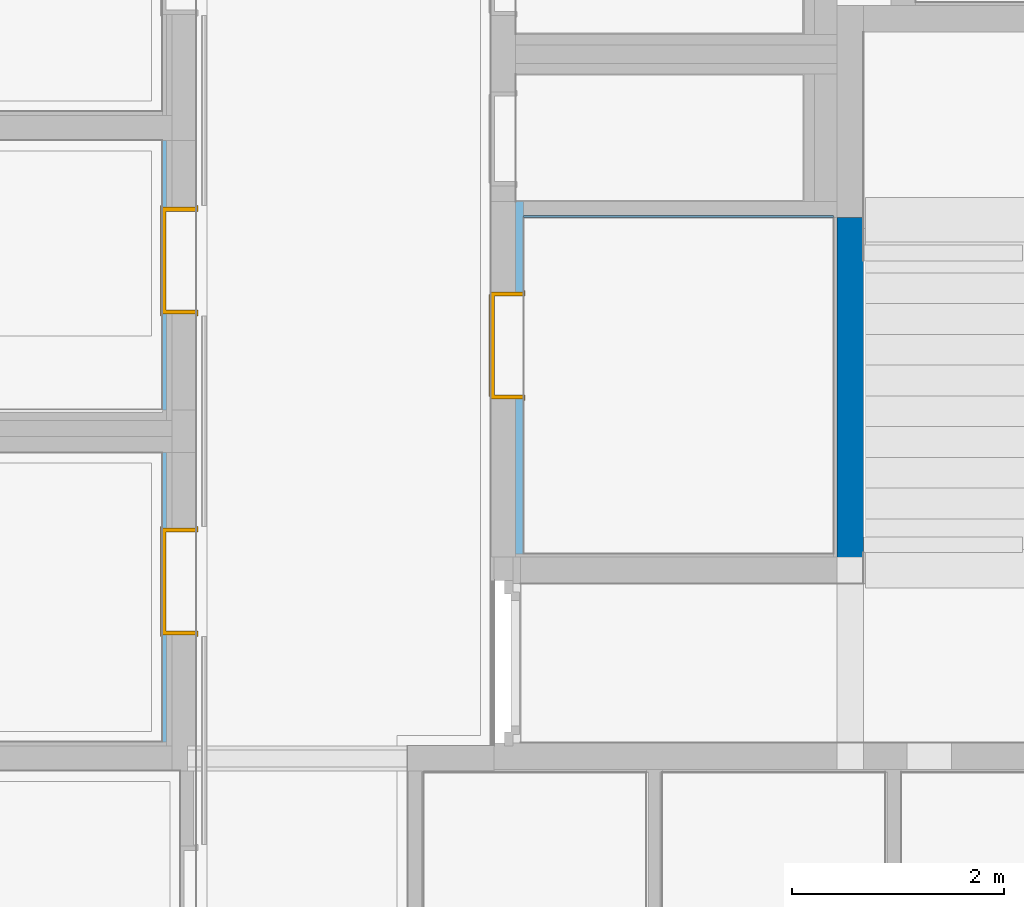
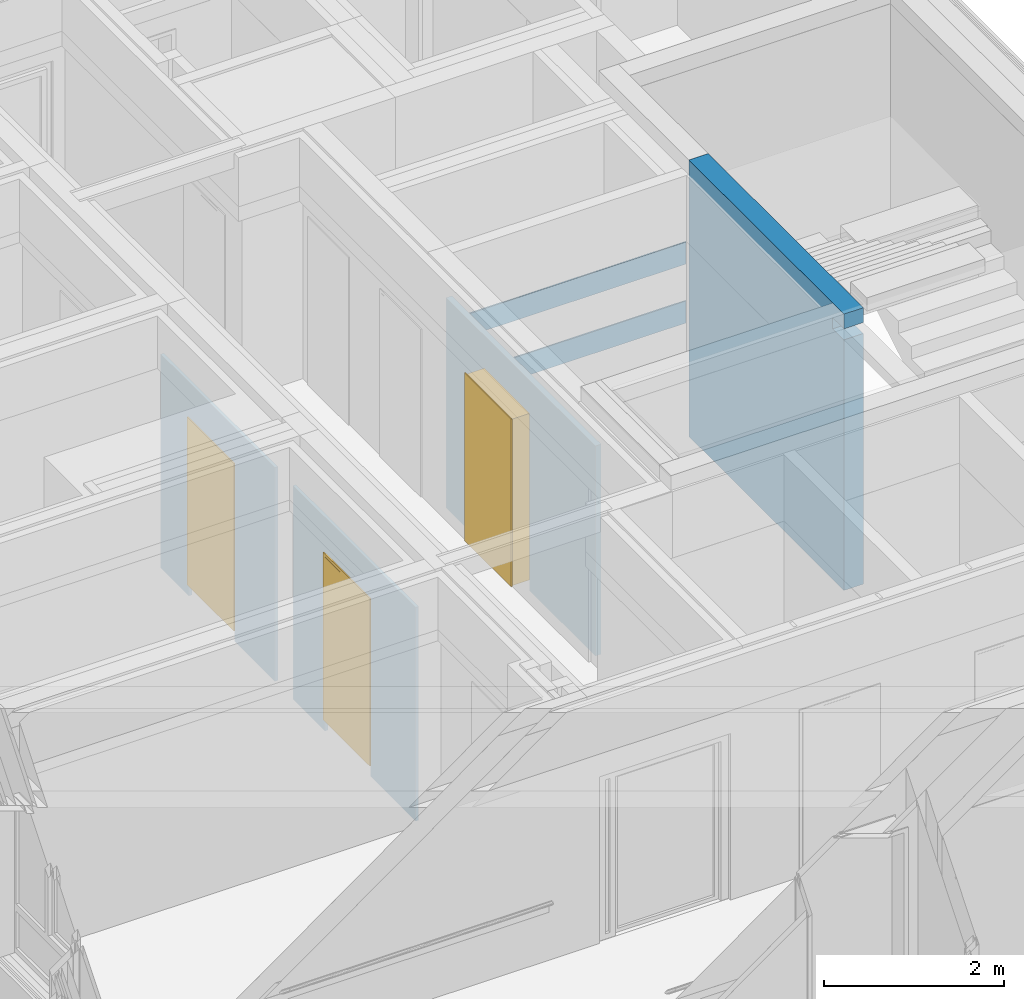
# One storey, part 135 of 222: 3 doors, 3 walls, 3 openings, plus 3 elements that do not belong to this part.
"""IFC4 building model written with IfcOpenShell, lengths in metres."""

from ifc_helpers import new_model, entity, si_unit, converted_unit, derived_unit, frame, frame_2d, origin, origin_with_axes, place, context, subcontext, project, spatial, polyline, rectangle, outline, extrude, faceted_brep, source, transform, mapped, material, type_object, element, fill, save


model = new_model("IFC4")

# Units and contexts
model_context = context("Model", 3, precision=1e-05, world=origin())
body_context = subcontext(model_context, "Body", "Model", "MODEL_VIEW")
ifc_project = project(units=[si_unit("LENGTHUNIT", "METRE"), si_unit("AREAUNIT", "SQUARE_METRE"), si_unit("VOLUMEUNIT", "CUBIC_METRE"), si_unit("MASSUNIT", "GRAM", prefix="KILO"), converted_unit("PLANEANGLEUNIT", "DEGREE", entity("IfcPlaneAngleMeasure", 0.0174532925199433), si_unit("PLANEANGLEUNIT", "RADIAN"), dimensions=[0, 0, 0, 0, 0, 0, 0]), derived_unit("THERMALTRANSMITTANCEUNIT", [(si_unit("POWERUNIT", "WATT"), 1), (si_unit("THERMODYNAMICTEMPERATUREUNIT", "KELVIN"), -1), (si_unit("LENGTHUNIT", "METRE"), -2)]), derived_unit("VOLUMETRICFLOWRATEUNIT", [(si_unit("LENGTHUNIT", "METRE"), 3), (converted_unit("TIMEUNIT", "hour", entity("IfcTimeMeasure", 3600.0), si_unit("TIMEUNIT", "SECOND"), dimensions=[0, 0, 1, 0, 0, 0, 0]), -1), (si_unit("LENGTHUNIT", "METRE"), -1)])], contexts=[model_context])

# Site, building, storey
site_placement = place(None, origin())
site = spatial("IfcSite", under=ifc_project, at=site_placement, Name="Psychiatrie Neubau Wunstorf", CompositionType="ELEMENT")
building_placement = place(site_placement, origin())
building = spatial("IfcBuilding", under=site, at=building_placement, Name="Neubau H2 Stationsgebäude", CompositionType="ELEMENT")
storey_placement = place(building_placement, frame((0.0, 0.0, 3.6)))
storey = spatial("IfcBuildingStorey", under=building, at=storey_placement, Name="H2 Ebene +1", CompositionType="ELEMENT", Elevation=3.6)

# Wall, opening, door
ifc_material_1 = material(Name="WI-LB")
wall_1_placement = place(storey_placement, frame((95.7609999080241, 13.6109999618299, 0.0), z_axis=(0.0, 0.0, 1.0), x_axis=(0.0, -1.0, 0.0)))
wall_1 = element("IfcWall", 1, at=wall_1_placement, inside=storey, material=ifc_material_1, context=body_context, shape_type="SweptSolid", body=[
    extrude(rectangle(XDim=2.72850006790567, YDim=0.0395, at=frame_2d((1.36425003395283, 0.01975), x_axis=(1.0, 0.0))), origin_with_axes(), (0.0, 0.0, 1.0), 2.9),
])
opening_1_placement = place(wall_1_placement, frame((1.72099996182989, 0.0395, 0.0), z_axis=(0.0, -1.0, 0.0), x_axis=(0.0, 0.0, 1.0)))
opening_1 = element("IfcOpeningElement", 2, at=opening_1_placement, cuts=wall_1, Name="Türöffnung", ObjectType="Opening", context=body_context, shape_type="SweptSolid", body=[
    extrude(outline(polyline([(2.41, 1.01), (2.41, 0.0), (0.0, 0.0), (0.0, 1.01), (2.41, 1.01)])), origin_with_axes(), (0.0, 0.0, 1.0), 0.0395),
])
ifc_material_2 = material(Name="TI-1F-UZ-ZK")
door_type_1 = type_object("IfcDoorType", Name="SMT", OperationType="SINGLE_SWING_RIGHT", ParameterTakesPrecedence=False, PredefinedType="DOOR")
shared_shape_1 = source(origin_with_axes(), body_context, "Body", "Brep", [
    faceted_brep([(1.01, -0.0149999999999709, 2.41), (1.01, -0.0149999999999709, 0.15), (0.969999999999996, -0.0149999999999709, 0.15), (0.969999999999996, -0.0149999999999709, 2.41), (1.01, 0.336500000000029, 0.15), (1.01, 0.336500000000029, 2.41), (0.969999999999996, 0.336500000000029, 2.41), (0.969999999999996, 0.336500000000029, 0.15)], [[[0, 1, 2, 3]], [[4, 5, 6, 7]], [[1, 0, 5, 4]], [[2, 1, 4, 7]], [[3, 2, 7, 6]], [[0, 3, 6, 5]]], orient=[[False], [False], [False], [False], [False], [False]]),
    faceted_brep([(1.01, -0.0149999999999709, 2.425), (1.025, -0.0149999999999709, 2.425), (1.025, -0.0149999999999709, 0.15), (1.01, -0.0149999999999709, 0.15), (1.01, 0.0, 0.15), (1.025, 0.0, 0.15), (1.025, 0.0, 2.425), (1.01, 0.0, 2.425)], [[[0, 1, 2, 3]], [[4, 5, 6, 7]], [[3, 4, 7, 0]], [[2, 5, 4, 3]], [[1, 6, 5, 2]], [[0, 7, 6, 1]]], orient=[[False], [False], [False], [False], [False], [False]]),
    faceted_brep([(1.01, 0.321500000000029, 2.425), (1.025, 0.321500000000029, 2.425), (1.025, 0.321500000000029, 0.15), (1.01, 0.321500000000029, 0.15), (1.01, 0.336500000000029, 0.15), (1.025, 0.336500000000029, 0.15), (1.025, 0.336500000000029, 2.425), (1.01, 0.336500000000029, 2.425)], [[[0, 1, 2, 3]], [[4, 5, 6, 7]], [[3, 4, 7, 0]], [[2, 5, 4, 3]], [[1, 6, 5, 2]], [[0, 7, 6, 1]]], orient=[[False], [False], [False], [False], [False], [False]]),
    faceted_brep([(0.0399999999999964, -0.0149999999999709, 2.41), (0.0399999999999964, -0.0149999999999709, 0.15), (0.0, -0.0149999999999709, 0.15), (0.0, -0.0149999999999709, 2.41), (0.0399999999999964, 0.336500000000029, 0.15), (0.0399999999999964, 0.336500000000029, 2.41), (0.0, 0.336500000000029, 2.41), (0.0, 0.336500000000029, 0.15)], [[[0, 1, 2, 3]], [[4, 5, 6, 7]], [[1, 0, 5, 4]], [[2, 1, 4, 7]], [[3, 2, 7, 6]], [[0, 3, 6, 5]]], orient=[[False], [False], [False], [False], [False], [False]]),
    faceted_brep([(0.0, -0.0149999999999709, 2.425), (0.0, -0.0149999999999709, 0.15), (-0.0150000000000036, -0.0149999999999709, 0.15), (-0.0150000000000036, -0.0149999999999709, 2.425), (0.0, 0.0, 0.15), (0.0, 0.0, 2.425), (-0.0150000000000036, 0.0, 2.425), (-0.0150000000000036, 0.0, 0.15)], [[[0, 1, 2, 3]], [[4, 5, 6, 7]], [[1, 0, 5, 4]], [[2, 1, 4, 7]], [[3, 2, 7, 6]], [[0, 3, 6, 5]]], orient=[[False], [False], [False], [False], [False], [False]]),
    faceted_brep([(0.0, 0.321500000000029, 2.425), (0.0, 0.321500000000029, 0.15), (-0.0150000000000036, 0.321500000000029, 0.15), (-0.0150000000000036, 0.321500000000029, 2.425), (0.0, 0.336500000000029, 0.15), (0.0, 0.336500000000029, 2.425), (-0.0150000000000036, 0.336500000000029, 2.425), (-0.0150000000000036, 0.336500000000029, 0.15)], [[[0, 1, 2, 3]], [[4, 5, 6, 7]], [[1, 0, 5, 4]], [[2, 1, 4, 7]], [[3, 2, 7, 6]], [[0, 3, 6, 5]]], orient=[[False], [False], [False], [False], [False], [False]]),
    faceted_brep([(0.969999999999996, -0.0149999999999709, 2.41), (0.969999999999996, -0.0149999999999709, 2.37), (0.0399999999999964, -0.0149999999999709, 2.37), (0.0399999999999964, -0.0149999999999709, 2.41), (0.969999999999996, 0.336500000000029, 2.37), (0.969999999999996, 0.336500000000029, 2.41), (0.0399999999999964, 0.336500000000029, 2.41), (0.0399999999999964, 0.336500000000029, 2.37)], [[[0, 1, 2, 3]], [[4, 5, 6, 7]], [[1, 0, 5, 4]], [[2, 1, 4, 7]], [[3, 2, 7, 6]], [[0, 3, 6, 5]]], orient=[[False], [False], [False], [False], [False], [False]]),
    faceted_brep([(1.01, -0.0149999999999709, 2.425), (1.01, -0.0149999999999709, 2.41), (0.0, -0.0149999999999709, 2.41), (0.0, -0.0149999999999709, 2.425), (1.01, 0.0, 2.41), (1.01, 0.0, 2.425), (0.0, 0.0, 2.425), (0.0, 0.0, 2.41)], [[[0, 1, 2, 3]], [[4, 5, 6, 7]], [[1, 0, 5, 4]], [[2, 1, 4, 7]], [[3, 2, 7, 6]], [[0, 3, 6, 5]]], orient=[[False], [False], [False], [False], [False], [False]]),
    faceted_brep([(1.01, 0.321500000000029, 2.425), (1.01, 0.321500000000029, 2.41), (0.0, 0.321500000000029, 2.41), (0.0, 0.321500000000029, 2.425), (1.01, 0.336500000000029, 2.41), (1.01, 0.336500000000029, 2.425), (0.0, 0.336500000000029, 2.425), (0.0, 0.336500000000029, 2.41)], [[[0, 1, 2, 3]], [[4, 5, 6, 7]], [[1, 0, 5, 4]], [[2, 1, 4, 7]], [[3, 2, 7, 6]], [[0, 3, 6, 5]]], orient=[[False], [False], [False], [False], [False], [False]]),
    faceted_brep([(0.984999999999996, 0.287500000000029, 2.385), (0.984999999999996, 0.287500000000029, 0.15), (0.0249999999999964, 0.287500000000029, 0.15), (0.0249999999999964, 0.287500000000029, 2.385), (0.984999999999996, 0.337500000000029, 0.15), (0.984999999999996, 0.337500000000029, 2.385), (0.0249999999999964, 0.337500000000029, 2.385), (0.0249999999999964, 0.337500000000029, 0.15)], [[[0, 1, 2, 3]], [[4, 5, 6, 7]], [[1, 0, 5, 4]], [[2, 1, 4, 7]], [[3, 2, 7, 6]], [[0, 3, 6, 5]]], orient=[[False], [False], [False], [False], [False], [False]]),
])
door_1_placement = place(opening_1_placement, frame((0.0, 0.0, -0.282), z_axis=(1.0, 0.0, 0.0), x_axis=(0.0, 1.0, 0.0)))
door_1 = element("IfcDoor", 3, at=door_1_placement, inside=storey, type_object=door_type_1, material=ifc_material_2, Name="SMT", OverallHeight=2.41, OverallWidth=1.01, context=body_context, shape_type="MappedRepresentation", body=[
    mapped(shared_shape_1, transform((0.0, 0.0, 0.0), x_axis=(1.0, 0.0, 0.0), y_axis=(0.0, 1.0, 0.0), z_axis=(0.0, 0.0, 1.0), scale=1.0)),
])
fill(opening_1, door_1)

ifc_material_3 = material(Name="WI-LB")
wall_2_placement = place(storey_placement, frame((95.7609999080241, 16.5535, 0.0), z_axis=(0.0, 0.0, 1.0), x_axis=(0.0, -1.0, 0.0)))
wall_2 = element("IfcWall", 4, at=wall_2_placement, inside=storey, material=ifc_material_3, context=body_context, shape_type="SweptSolid", body=[
    extrude(rectangle(XDim=2.54250003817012, YDim=0.0395, at=frame_2d((1.27125001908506, 0.01975), x_axis=(1.0, 0.0))), origin_with_axes(), (0.0, 0.0, 1.0), 2.9),
])
opening_2_placement = place(wall_2_placement, frame((1.63849999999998, 0.0395, 0.0), z_axis=(0.0, -1.0, 0.0), x_axis=(0.0, 0.0, 1.0)))
opening_2 = element("IfcOpeningElement", 5, at=opening_2_placement, cuts=wall_2, Name="Türöffnung", ObjectType="Opening", context=body_context, shape_type="SweptSolid", body=[
    extrude(outline(polyline([(2.41, 1.01), (2.41, 0.0), (0.0, 0.0), (0.0, 1.01), (2.41, 1.01)])), origin_with_axes(), (0.0, 0.0, 1.0), 0.0395),
])
ifc_material_4 = material(Name="TI-1F-UZ-ZK")
door_type_2 = type_object("IfcDoorType", Name="SMT", OperationType="SINGLE_SWING_RIGHT", ParameterTakesPrecedence=False, PredefinedType="DOOR")
shared_shape_2 = source(origin_with_axes(), body_context, "Body", "Brep", [
    faceted_brep([(1.01, -0.0149999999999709, 2.41), (1.01, -0.0149999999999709, 0.15), (0.969999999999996, -0.0149999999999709, 0.15), (0.969999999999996, -0.0149999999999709, 2.41), (1.01, 0.336500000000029, 0.15), (1.01, 0.336500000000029, 2.41), (0.969999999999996, 0.336500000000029, 2.41), (0.969999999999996, 0.336500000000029, 0.15)], [[[0, 1, 2, 3]], [[4, 5, 6, 7]], [[1, 0, 5, 4]], [[2, 1, 4, 7]], [[3, 2, 7, 6]], [[0, 3, 6, 5]]], orient=[[False], [False], [False], [False], [False], [False]]),
    faceted_brep([(1.01, -0.0149999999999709, 2.425), (1.025, -0.0149999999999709, 2.425), (1.025, -0.0149999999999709, 0.15), (1.01, -0.0149999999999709, 0.15), (1.01, 0.0, 0.15), (1.025, 0.0, 0.15), (1.025, 0.0, 2.425), (1.01, 0.0, 2.425)], [[[0, 1, 2, 3]], [[4, 5, 6, 7]], [[3, 4, 7, 0]], [[2, 5, 4, 3]], [[1, 6, 5, 2]], [[0, 7, 6, 1]]], orient=[[False], [False], [False], [False], [False], [False]]),
    faceted_brep([(1.01, 0.321500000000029, 2.425), (1.025, 0.321500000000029, 2.425), (1.025, 0.321500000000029, 0.15), (1.01, 0.321500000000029, 0.15), (1.01, 0.336500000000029, 0.15), (1.025, 0.336500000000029, 0.15), (1.025, 0.336500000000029, 2.425), (1.01, 0.336500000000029, 2.425)], [[[0, 1, 2, 3]], [[4, 5, 6, 7]], [[3, 4, 7, 0]], [[2, 5, 4, 3]], [[1, 6, 5, 2]], [[0, 7, 6, 1]]], orient=[[False], [False], [False], [False], [False], [False]]),
    faceted_brep([(0.0399999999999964, -0.0149999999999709, 2.41), (0.0399999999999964, -0.0149999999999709, 0.15), (0.0, -0.0149999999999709, 0.15), (0.0, -0.0149999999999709, 2.41), (0.0399999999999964, 0.336500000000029, 0.15), (0.0399999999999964, 0.336500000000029, 2.41), (0.0, 0.336500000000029, 2.41), (0.0, 0.336500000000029, 0.15)], [[[0, 1, 2, 3]], [[4, 5, 6, 7]], [[1, 0, 5, 4]], [[2, 1, 4, 7]], [[3, 2, 7, 6]], [[0, 3, 6, 5]]], orient=[[False], [False], [False], [False], [False], [False]]),
    faceted_brep([(0.0, -0.0149999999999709, 2.425), (0.0, -0.0149999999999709, 0.15), (-0.0150000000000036, -0.0149999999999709, 0.15), (-0.0150000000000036, -0.0149999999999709, 2.425), (0.0, 0.0, 0.15), (0.0, 0.0, 2.425), (-0.0150000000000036, 0.0, 2.425), (-0.0150000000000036, 0.0, 0.15)], [[[0, 1, 2, 3]], [[4, 5, 6, 7]], [[1, 0, 5, 4]], [[2, 1, 4, 7]], [[3, 2, 7, 6]], [[0, 3, 6, 5]]], orient=[[False], [False], [False], [False], [False], [False]]),
    faceted_brep([(0.0, 0.321500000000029, 2.425), (0.0, 0.321500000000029, 0.15), (-0.0150000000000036, 0.321500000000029, 0.15), (-0.0150000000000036, 0.321500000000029, 2.425), (0.0, 0.336500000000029, 0.15), (0.0, 0.336500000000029, 2.425), (-0.0150000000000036, 0.336500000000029, 2.425), (-0.0150000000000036, 0.336500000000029, 0.15)], [[[0, 1, 2, 3]], [[4, 5, 6, 7]], [[1, 0, 5, 4]], [[2, 1, 4, 7]], [[3, 2, 7, 6]], [[0, 3, 6, 5]]], orient=[[False], [False], [False], [False], [False], [False]]),
    faceted_brep([(0.969999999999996, -0.0149999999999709, 2.41), (0.969999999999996, -0.0149999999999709, 2.37), (0.0399999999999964, -0.0149999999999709, 2.37), (0.0399999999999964, -0.0149999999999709, 2.41), (0.969999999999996, 0.336500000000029, 2.37), (0.969999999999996, 0.336500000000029, 2.41), (0.0399999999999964, 0.336500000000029, 2.41), (0.0399999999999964, 0.336500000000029, 2.37)], [[[0, 1, 2, 3]], [[4, 5, 6, 7]], [[1, 0, 5, 4]], [[2, 1, 4, 7]], [[3, 2, 7, 6]], [[0, 3, 6, 5]]], orient=[[False], [False], [False], [False], [False], [False]]),
    faceted_brep([(1.01, -0.0149999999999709, 2.425), (1.01, -0.0149999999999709, 2.41), (0.0, -0.0149999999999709, 2.41), (0.0, -0.0149999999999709, 2.425), (1.01, 0.0, 2.41), (1.01, 0.0, 2.425), (0.0, 0.0, 2.425), (0.0, 0.0, 2.41)], [[[0, 1, 2, 3]], [[4, 5, 6, 7]], [[1, 0, 5, 4]], [[2, 1, 4, 7]], [[3, 2, 7, 6]], [[0, 3, 6, 5]]], orient=[[False], [False], [False], [False], [False], [False]]),
    faceted_brep([(1.01, 0.321500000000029, 2.425), (1.01, 0.321500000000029, 2.41), (0.0, 0.321500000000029, 2.41), (0.0, 0.321500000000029, 2.425), (1.01, 0.336500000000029, 2.41), (1.01, 0.336500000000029, 2.425), (0.0, 0.336500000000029, 2.425), (0.0, 0.336500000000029, 2.41)], [[[0, 1, 2, 3]], [[4, 5, 6, 7]], [[1, 0, 5, 4]], [[2, 1, 4, 7]], [[3, 2, 7, 6]], [[0, 3, 6, 5]]], orient=[[False], [False], [False], [False], [False], [False]]),
    faceted_brep([(0.984999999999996, 0.287500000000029, 2.385), (0.984999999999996, 0.287500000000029, 0.15), (0.0249999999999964, 0.287500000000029, 0.15), (0.0249999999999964, 0.287500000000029, 2.385), (0.984999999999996, 0.337500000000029, 0.15), (0.984999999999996, 0.337500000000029, 2.385), (0.0249999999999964, 0.337500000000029, 2.385), (0.0249999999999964, 0.337500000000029, 0.15)], [[[0, 1, 2, 3]], [[4, 5, 6, 7]], [[1, 0, 5, 4]], [[2, 1, 4, 7]], [[3, 2, 7, 6]], [[0, 3, 6, 5]]], orient=[[False], [False], [False], [False], [False], [False]]),
])
door_2_placement = place(opening_2_placement, frame((0.0, 0.0, -0.282), z_axis=(1.0, 0.0, 0.0), x_axis=(0.0, 1.0, 0.0)))
door_2 = element("IfcDoor", 6, at=door_2_placement, inside=storey, type_object=door_type_2, material=ifc_material_4, Name="SMT", OverallHeight=2.41, OverallWidth=1.01, context=body_context, shape_type="MappedRepresentation", body=[
    mapped(shared_shape_2, transform((0.0, 0.0, 0.0), x_axis=(1.0, 0.0, 0.0), y_axis=(0.0, 1.0, 0.0), z_axis=(0.0, 0.0, 1.0), scale=1.0)),
])
fill(opening_2, door_2)

# Walls
for number, where, name in (
    (7, (99.166, 15.8249998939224, 2.35), "WV 1.1"),
    (8, (99.166, 15.8249998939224, 1.55), "WV 1.1"),
):
    element("IfcWall", number, at=place(storey_placement, frame(where)), inside=storey, Name=name, context=body_context, shape_type="Brep", body=[
        faceted_brep([(2.92, 0.0, 0.0), (2.92, 0.018, 0.0), (0.0, 0.018, 0.0), (0.0, 0.0, 0.0), (2.92, 0.018, 0.3), (2.92, 0.0, 0.3), (0.0, 0.0, 0.3), (0.0, 0.018, 0.3)], [[[0, 1, 2, 3]], [[4, 5, 6, 7]], [[1, 0, 5, 4]], [[2, 1, 4, 7]], [[3, 2, 7, 6]], [[0, 3, 6, 5]]], orient=[[False], [False], [False], [False], [False], [False]]),
    ])

# Wall, opening, door
ifc_material_5 = material(Name="WI-LB")
wall_3_placement = place(storey_placement, frame((99.1659999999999, 12.6550009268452, 0.0), z_axis=(0.0, 0.0, 1.0), x_axis=(0.0, 1.0, 0.0)))
wall_3 = element("IfcWall", 9, at=wall_3_placement, inside=storey, material=ifc_material_5, context=body_context, shape_type="SweptSolid", body=[
    extrude(rectangle(XDim=3.31999896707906, YDim=0.075, at=frame_2d((1.65999948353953, 0.0375), x_axis=(1.0, 0.0))), origin_with_axes(), (0.0, 0.0, 1.0), 2.85),
])
opening_3_placement = place(wall_3_placement, frame((2.47000039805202, 0.075, 0.0), z_axis=(0.0, -1.0, 0.0), x_axis=(0.0, 0.0, 1.0)))
opening_3 = element("IfcOpeningElement", 10, at=opening_3_placement, cuts=wall_3, Name="Türöffnung", ObjectType="Opening", context=body_context, shape_type="SweptSolid", body=[
    extrude(outline(polyline([(2.41, 1.01), (2.41, 0.0), (0.0, 0.0), (0.0, 1.01), (2.41, 1.01)])), origin_with_axes(), (0.0, 0.0, 1.0), 0.075),
])
ifc_material_6 = material(Name="TI-1F-UZ-ZK")
door_type_3 = type_object("IfcDoorType", Name="SMT", OperationType="SINGLE_SWING_RIGHT", ParameterTakesPrecedence=False, PredefinedType="DOOR")
shared_shape_3 = source(origin_with_axes(), body_context, "Body", "Brep", [
    faceted_brep([(1.01, -0.0149999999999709, 2.41), (1.01, -0.0149999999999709, 0.15), (0.969999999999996, -0.0149999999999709, 0.15), (0.969999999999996, -0.0149999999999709, 2.41), (1.01, 0.322000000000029, 0.15), (1.01, 0.322000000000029, 2.41), (0.969999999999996, 0.322000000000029, 2.41), (0.969999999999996, 0.322000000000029, 0.15)], [[[0, 1, 2, 3]], [[4, 5, 6, 7]], [[1, 0, 5, 4]], [[2, 1, 4, 7]], [[3, 2, 7, 6]], [[0, 3, 6, 5]]], orient=[[False], [False], [False], [False], [False], [False]]),
    faceted_brep([(1.01, -0.0149999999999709, 2.425), (1.025, -0.0149999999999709, 2.425), (1.025, -0.0149999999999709, 0.15), (1.01, -0.0149999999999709, 0.15), (1.01, 0.0, 0.15), (1.025, 0.0, 0.15), (1.025, 0.0, 2.425), (1.01, 0.0, 2.425)], [[[0, 1, 2, 3]], [[4, 5, 6, 7]], [[3, 4, 7, 0]], [[2, 5, 4, 3]], [[1, 6, 5, 2]], [[0, 7, 6, 1]]], orient=[[False], [False], [False], [False], [False], [False]]),
    faceted_brep([(1.01, 0.307000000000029, 2.425), (1.025, 0.307000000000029, 2.425), (1.025, 0.307000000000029, 0.15), (1.01, 0.307000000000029, 0.15), (1.01, 0.322000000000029, 0.15), (1.025, 0.322000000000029, 0.15), (1.025, 0.322000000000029, 2.425), (1.01, 0.322000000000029, 2.425)], [[[0, 1, 2, 3]], [[4, 5, 6, 7]], [[3, 4, 7, 0]], [[2, 5, 4, 3]], [[1, 6, 5, 2]], [[0, 7, 6, 1]]], orient=[[False], [False], [False], [False], [False], [False]]),
    faceted_brep([(0.0399999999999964, -0.0149999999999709, 2.41), (0.0399999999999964, -0.0149999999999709, 0.15), (0.0, -0.0149999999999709, 0.15), (0.0, -0.0149999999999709, 2.41), (0.0399999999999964, 0.322000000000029, 0.15), (0.0399999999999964, 0.322000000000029, 2.41), (0.0, 0.322000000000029, 2.41), (0.0, 0.322000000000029, 0.15)], [[[0, 1, 2, 3]], [[4, 5, 6, 7]], [[1, 0, 5, 4]], [[2, 1, 4, 7]], [[3, 2, 7, 6]], [[0, 3, 6, 5]]], orient=[[False], [False], [False], [False], [False], [False]]),
    faceted_brep([(0.0, -0.0149999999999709, 2.425), (0.0, -0.0149999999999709, 0.15), (-0.0150000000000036, -0.0149999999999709, 0.15), (-0.0150000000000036, -0.0149999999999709, 2.425), (0.0, 0.0, 0.15), (0.0, 0.0, 2.425), (-0.0150000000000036, 0.0, 2.425), (-0.0150000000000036, 0.0, 0.15)], [[[0, 1, 2, 3]], [[4, 5, 6, 7]], [[1, 0, 5, 4]], [[2, 1, 4, 7]], [[3, 2, 7, 6]], [[0, 3, 6, 5]]], orient=[[False], [False], [False], [False], [False], [False]]),
    faceted_brep([(0.0, 0.307000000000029, 2.425), (0.0, 0.307000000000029, 0.15), (-0.0150000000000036, 0.307000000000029, 0.15), (-0.0150000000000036, 0.307000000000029, 2.425), (0.0, 0.322000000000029, 0.15), (0.0, 0.322000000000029, 2.425), (-0.0150000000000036, 0.322000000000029, 2.425), (-0.0150000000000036, 0.322000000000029, 0.15)], [[[0, 1, 2, 3]], [[4, 5, 6, 7]], [[1, 0, 5, 4]], [[2, 1, 4, 7]], [[3, 2, 7, 6]], [[0, 3, 6, 5]]], orient=[[False], [False], [False], [False], [False], [False]]),
    faceted_brep([(0.969999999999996, -0.0149999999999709, 2.41), (0.969999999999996, -0.0149999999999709, 2.37), (0.0399999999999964, -0.0149999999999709, 2.37), (0.0399999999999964, -0.0149999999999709, 2.41), (0.969999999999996, 0.322000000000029, 2.37), (0.969999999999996, 0.322000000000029, 2.41), (0.0399999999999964, 0.322000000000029, 2.41), (0.0399999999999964, 0.322000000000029, 2.37)], [[[0, 1, 2, 3]], [[4, 5, 6, 7]], [[1, 0, 5, 4]], [[2, 1, 4, 7]], [[3, 2, 7, 6]], [[0, 3, 6, 5]]], orient=[[False], [False], [False], [False], [False], [False]]),
    faceted_brep([(1.01, -0.0149999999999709, 2.425), (1.01, -0.0149999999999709, 2.41), (0.0, -0.0149999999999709, 2.41), (0.0, -0.0149999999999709, 2.425), (1.01, 0.0, 2.41), (1.01, 0.0, 2.425), (0.0, 0.0, 2.425), (0.0, 0.0, 2.41)], [[[0, 1, 2, 3]], [[4, 5, 6, 7]], [[1, 0, 5, 4]], [[2, 1, 4, 7]], [[3, 2, 7, 6]], [[0, 3, 6, 5]]], orient=[[False], [False], [False], [False], [False], [False]]),
    faceted_brep([(1.01, 0.307000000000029, 2.425), (1.01, 0.307000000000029, 2.41), (0.0, 0.307000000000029, 2.41), (0.0, 0.307000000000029, 2.425), (1.01, 0.322000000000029, 2.41), (1.01, 0.322000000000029, 2.425), (0.0, 0.322000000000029, 2.425), (0.0, 0.322000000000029, 2.41)], [[[0, 1, 2, 3]], [[4, 5, 6, 7]], [[1, 0, 5, 4]], [[2, 1, 4, 7]], [[3, 2, 7, 6]], [[0, 3, 6, 5]]], orient=[[False], [False], [False], [False], [False], [False]]),
    faceted_brep([(0.984999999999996, 0.273000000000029, 2.385), (0.984999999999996, 0.273000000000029, 0.15), (0.0249999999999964, 0.273000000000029, 0.15), (0.0249999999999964, 0.273000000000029, 2.385), (0.984999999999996, 0.323000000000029, 0.15), (0.984999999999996, 0.323000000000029, 2.385), (0.0249999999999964, 0.323000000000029, 2.385), (0.0249999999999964, 0.323000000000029, 0.15)], [[[0, 1, 2, 3]], [[4, 5, 6, 7]], [[1, 0, 5, 4]], [[2, 1, 4, 7]], [[3, 2, 7, 6]], [[0, 3, 6, 5]]], orient=[[False], [False], [False], [False], [False], [False]]),
])
door_3_placement = place(opening_3_placement, frame((0.0, 1.01, 0.075), z_axis=(1.0, 0.0, 0.0), x_axis=(0.0, -1.0, 0.0)))
door_3 = element("IfcDoor", 11, at=door_3_placement, inside=storey, type_object=door_type_3, material=ifc_material_6, Name="SMT", OverallHeight=2.41, OverallWidth=1.01, context=body_context, shape_type="MappedRepresentation", body=[
    mapped(shared_shape_3, transform((0.0, 0.0, 0.0), x_axis=(1.0, 0.0, 0.0), y_axis=(0.0, 1.0, 0.0), z_axis=(0.0, 0.0, 1.0), scale=1.0)),
])
fill(opening_3, door_3)

# Wall
ifc_material_7 = material(Name="WI-STB")
wall_4_placement = place(storey_placement, frame((102.12, 12.3749998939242, 0.0)))
element("IfcWall", 12, at=wall_4_placement, inside=storey, material=ifc_material_7, context=body_context, shape_type="Brep", body=[
    faceted_brep([(0.25, 0.250000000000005, 3.55), (0.25, 0.250000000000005, 3.4), (0.0, 0.250000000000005, 3.4), (0.0, 0.250000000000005, 3.55), (0.0, 0.0, 3.55), (0.25, 0.0, 3.55), (0.25, 0.0, 3.4), (0.0, 0.0, 3.4), (0.0, 0.0, 3.75), (0.25, 0.0, 3.75), (0.25, 3.45, 3.75), (0.25, 3.45, 0.0), (0.25, 0.0, 0.0), (0.0, 0.0, 0.0), (0.0, 3.45, 0.0), (0.0, 3.45, 3.75)], [[[0, 1, 2, 3]], [[3, 4, 5, 0]], [[1, 6, 7, 2]], [[4, 8, 9, 5]], [[5, 9, 10, 11, 12, 6, 1, 0]], [[6, 12, 13, 7]], [[3, 2, 7, 13, 14, 15, 8, 4]], [[14, 11, 10, 15]], [[15, 10, 9, 8]], [[11, 14, 13, 12]]], orient=[[False], [False], [False], [False], [False], [False], [False], [False], [False], [False]]),
])

save(model, "model.ifc")
